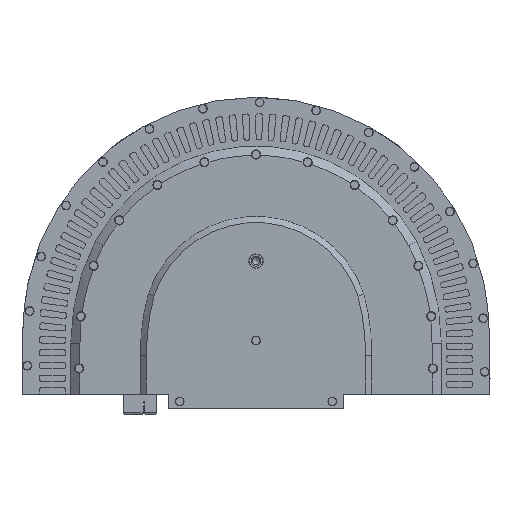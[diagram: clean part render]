
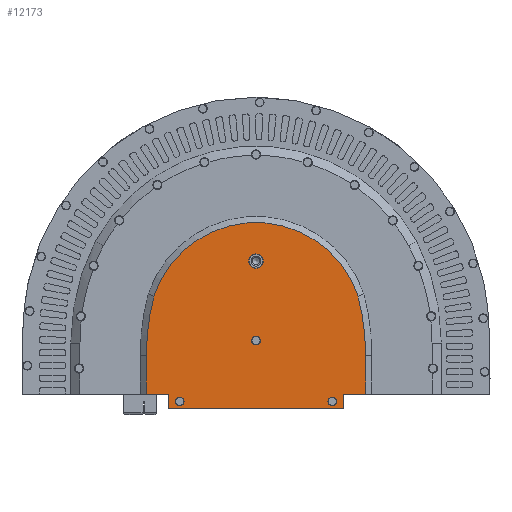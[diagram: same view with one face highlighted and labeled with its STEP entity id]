
A CAD part, left-side view. The second image highlights one B-rep face of the part: STEP entity #12173.
In plain terms, the highlighted planar face has unit normal (-1, 0, 0).
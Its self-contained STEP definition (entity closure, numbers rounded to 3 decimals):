
#372=FACE_BOUND('',#1249,.T.);
#373=FACE_BOUND('',#1250,.T.);
#374=FACE_BOUND('',#1251,.T.);
#375=FACE_BOUND('',#1252,.T.);
#647=FACE_OUTER_BOUND('',#1248,.T.);
#1248=EDGE_LOOP('',(#8996,#8997,#8998,#8999,#9000,#9001,#9002,#9003,#9004,
#9005));
#1249=EDGE_LOOP('',(#9006));
#1250=EDGE_LOOP('',(#9007));
#1251=EDGE_LOOP('',(#9008));
#1252=EDGE_LOOP('',(#9009));
#2095=LINE('',#19262,#2945);
#2096=LINE('',#19264,#2946);
#2097=LINE('',#19266,#2947);
#2098=LINE('',#19268,#2948);
#2099=LINE('',#19270,#2949);
#2100=LINE('',#19272,#2950);
#2101=LINE('',#19274,#2951);
#2945=VECTOR('',#15073,10.);
#2946=VECTOR('',#15074,10.);
#2947=VECTOR('',#15075,10.);
#2948=VECTOR('',#15076,10.);
#2949=VECTOR('',#15077,10.);
#2950=VECTOR('',#15078,10.);
#2951=VECTOR('',#15079,10.);
#3805=CIRCLE('',#12983,4.75);
#3807=CIRCLE('',#12987,156.);
#3808=CIRCLE('',#12988,70.5);
#3809=CIRCLE('',#12989,156.);
#3810=CIRCLE('',#12990,2.85);
#3811=CIRCLE('',#12991,2.85);
#3812=CIRCLE('',#12992,2.85);
#5023=VERTEX_POINT('',#19253);
#5025=VERTEX_POINT('',#19260);
#5026=VERTEX_POINT('',#19261);
#5027=VERTEX_POINT('',#19263);
#5028=VERTEX_POINT('',#19265);
#5029=VERTEX_POINT('',#19267);
#5030=VERTEX_POINT('',#19269);
#5031=VERTEX_POINT('',#19271);
#5032=VERTEX_POINT('',#19273);
#5033=VERTEX_POINT('',#19275);
#5034=VERTEX_POINT('',#19277);
#5035=VERTEX_POINT('',#19280);
#5036=VERTEX_POINT('',#19282);
#5037=VERTEX_POINT('',#19284);
#6614=EDGE_CURVE('',#5023,#5023,#3805,.T.);
#6617=EDGE_CURVE('',#5025,#5026,#2095,.T.);
#6618=EDGE_CURVE('',#5025,#5027,#2096,.T.);
#6619=EDGE_CURVE('',#5027,#5028,#2097,.T.);
#6620=EDGE_CURVE('',#5028,#5029,#2098,.T.);
#6621=EDGE_CURVE('',#5029,#5030,#2099,.T.);
#6622=EDGE_CURVE('',#5030,#5031,#2100,.T.);
#6623=EDGE_CURVE('',#5032,#5031,#2101,.T.);
#6624=EDGE_CURVE('',#5033,#5032,#3807,.T.);
#6625=EDGE_CURVE('',#5034,#5033,#3808,.T.);
#6626=EDGE_CURVE('',#5026,#5034,#3809,.T.);
#6627=EDGE_CURVE('',#5035,#5035,#3810,.T.);
#6628=EDGE_CURVE('',#5036,#5036,#3811,.T.);
#6629=EDGE_CURVE('',#5037,#5037,#3812,.T.);
#8996=ORIENTED_EDGE('',*,*,#6617,.F.);
#8997=ORIENTED_EDGE('',*,*,#6618,.T.);
#8998=ORIENTED_EDGE('',*,*,#6619,.T.);
#8999=ORIENTED_EDGE('',*,*,#6620,.T.);
#9000=ORIENTED_EDGE('',*,*,#6621,.T.);
#9001=ORIENTED_EDGE('',*,*,#6622,.T.);
#9002=ORIENTED_EDGE('',*,*,#6623,.F.);
#9003=ORIENTED_EDGE('',*,*,#6624,.F.);
#9004=ORIENTED_EDGE('',*,*,#6625,.F.);
#9005=ORIENTED_EDGE('',*,*,#6626,.F.);
#9006=ORIENTED_EDGE('',*,*,#6627,.T.);
#9007=ORIENTED_EDGE('',*,*,#6628,.T.);
#9008=ORIENTED_EDGE('',*,*,#6629,.T.);
#9009=ORIENTED_EDGE('',*,*,#6614,.T.);
#11863=PLANE('',#12986);
#12173=ADVANCED_FACE('',(#647,#372,#373,#374,#375),#11863,.F.);
#12983=AXIS2_PLACEMENT_3D('',#19254,#15064,#15065);
#12986=AXIS2_PLACEMENT_3D('',#19259,#15071,#15072);
#12987=AXIS2_PLACEMENT_3D('',#19276,#15080,#15081);
#12988=AXIS2_PLACEMENT_3D('',#19278,#15082,#15083);
#12989=AXIS2_PLACEMENT_3D('',#19279,#15084,#15085);
#12990=AXIS2_PLACEMENT_3D('',#19281,#15086,#15087);
#12991=AXIS2_PLACEMENT_3D('',#19283,#15088,#15089);
#12992=AXIS2_PLACEMENT_3D('',#19285,#15090,#15091);
#15064=DIRECTION('center_axis',(1.,0.,0.));
#15065=DIRECTION('ref_axis',(0.,0.,-1.));
#15071=DIRECTION('center_axis',(1.,0.,0.));
#15072=DIRECTION('ref_axis',(0.,0.,-1.));
#15073=DIRECTION('',(0.,0.,1.));
#15074=DIRECTION('',(0.,-1.,0.));
#15075=DIRECTION('',(0.,0.,-1.));
#15076=DIRECTION('',(0.,-1.,0.));
#15077=DIRECTION('',(0.,0.,1.));
#15078=DIRECTION('',(0.,-1.,0.));
#15079=DIRECTION('',(0.,0.,-1.));
#15080=DIRECTION('center_axis',(1.,0.,0.));
#15081=DIRECTION('ref_axis',(0.,-1.,0.));
#15082=DIRECTION('center_axis',(1.,0.,0.));
#15083=DIRECTION('ref_axis',(0.,-0.949,0.316));
#15084=DIRECTION('center_axis',(1.,0.,0.));
#15085=DIRECTION('ref_axis',(0.,0.968,0.252));
#15086=DIRECTION('center_axis',(1.,0.,0.));
#15087=DIRECTION('ref_axis',(0.,0.,-1.));
#15088=DIRECTION('center_axis',(1.,0.,0.));
#15089=DIRECTION('ref_axis',(0.,0.,-1.));
#15090=DIRECTION('center_axis',(1.,0.,0.));
#15091=DIRECTION('ref_axis',(0.,0.,-1.));
#19253=CARTESIAN_POINT('',(-22.05,0.,91.75));
#19254=CARTESIAN_POINT('Origin',(-22.05,0.,87.));
#19259=CARTESIAN_POINT('Origin',(-22.05,0.,37.684));
#19260=CARTESIAN_POINT('',(-22.05,71.85,-0.1));
#19261=CARTESIAN_POINT('',(-22.05,71.85,25.));
#19262=CARTESIAN_POINT('',(-22.05,71.85,31.342));
#19263=CARTESIAN_POINT('',(-22.05,57.35,-0.1));
#19264=CARTESIAN_POINT('',(-22.05,75.85,-0.1));
#19265=CARTESIAN_POINT('',(-22.05,57.35,-9.8));
#19266=CARTESIAN_POINT('',(-22.05,57.35,-0.1));
#19267=CARTESIAN_POINT('',(-22.05,-57.35,-9.8));
#19268=CARTESIAN_POINT('',(-22.05,57.35,-9.8));
#19269=CARTESIAN_POINT('',(-22.05,-57.35,-0.1));
#19270=CARTESIAN_POINT('',(-22.05,-57.35,-9.8));
#19271=CARTESIAN_POINT('',(-22.05,-71.85,-0.1));
#19272=CARTESIAN_POINT('',(-22.05,-57.35,-0.1));
#19273=CARTESIAN_POINT('',(-22.05,-71.85,25.));
#19274=CARTESIAN_POINT('',(-22.05,-71.85,18.792));
#19275=CARTESIAN_POINT('',(-22.05,-66.837,64.229));
#19276=CARTESIAN_POINT('Origin',(-22.05,84.15,25.));
#19277=CARTESIAN_POINT('',(-22.05,66.837,64.229));
#19278=CARTESIAN_POINT('Origin',(-22.05,0.,41.8));
#19279=CARTESIAN_POINT('Origin',(-22.05,-84.15,25.));
#19280=CARTESIAN_POINT('',(-22.05,-50.,-2.05));
#19281=CARTESIAN_POINT('Origin',(-22.05,-50.,-4.9));
#19282=CARTESIAN_POINT('',(-22.05,0.,37.85));
#19283=CARTESIAN_POINT('Origin',(-22.05,0.,35.));
#19284=CARTESIAN_POINT('',(-22.05,50.,-2.05));
#19285=CARTESIAN_POINT('Origin',(-22.05,50.,-4.9));
